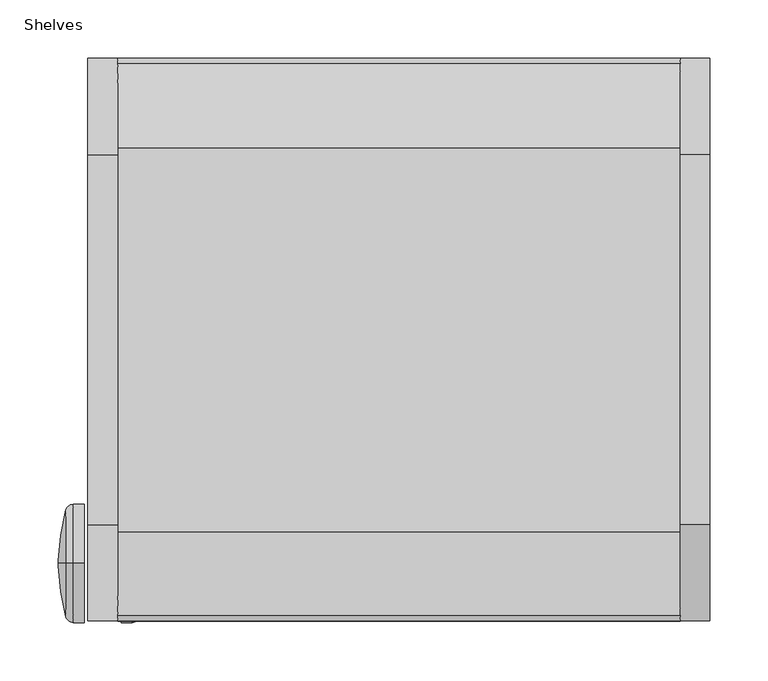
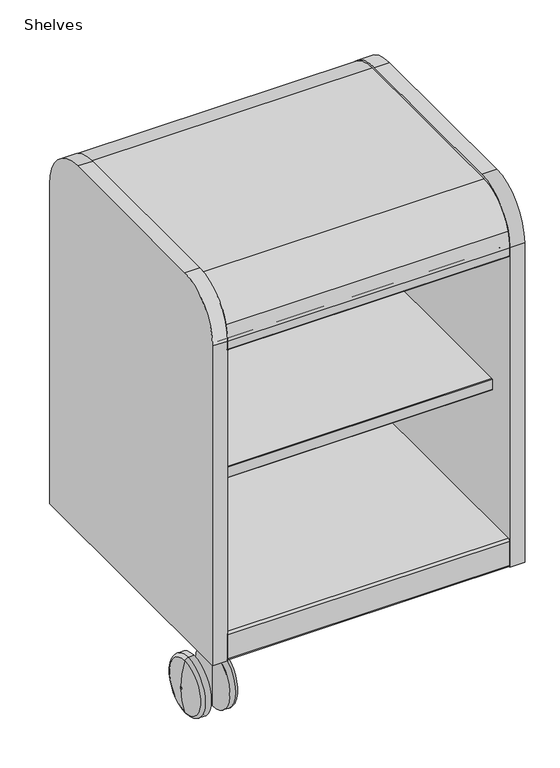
"""IFC4 building model written with IfcOpenShell, lengths in millimetres: furniture geometry, SmithSystem_AM_Storage_Education_Cascade_Case_Mini : Shelves."""

from ifc_helpers import new_model, si_unit, point, frame, frame_2d, origin, place, context, project, spatial, polyline, circle_curve, ellipse_curve, trimmed, segment, composite_curve, outline, extrude, source, transform, mapped, element, save
from ifc_brep_helpers import plane_surface, cylinder_surface, revolved_surface, advanced_brep


def shelves_8a43c67c(model_context):
    return source(origin(), model_context, "Body", "SolidModel", [
        advanced_brep(
        [(-12.7337323, -433.1285696, 101.6), (-12.7337323, -433.1285696, 0.0), (-3.1108852, -433.1285696, 0.0), (-3.1108852, -433.1285696, 101.6), (-3.1108852, -433.1285696, 50.8), (-25.4, -433.1285696, 50.8), (-25.3587665, -433.1285696, 48.5740197), (-25.3587665, -433.1285696, 53.0259803), (-18.8758028, -433.1285696, 4.7383332), (-18.8758028, -433.1285696, 96.8616668)],
        [
            (0, 1, circle_curve(frame((-12.7337323, -433.1285696, 50.8), z_axis=(1.0, 0.0, 0.0), x_axis=(0.0, 0.0, -1.0)), 50.8)),
            (1, 2),
            (2, 3, circle_curve(frame((-3.1108852, -433.1285696, 50.8), z_axis=(-1.0, 0.0, 0.0), x_axis=(0.0, 0.0, -1.0)), 50.8)),
            (3, 0),
            (1, 0, circle_curve(frame((-12.7337323, -433.1285696, 50.8), z_axis=(1.0, 0.0, 0.0), x_axis=(0.0, 0.0, -1.0)), 50.8)),
            (3, 2, circle_curve(frame((-3.1108852, -433.1285696, 50.8), z_axis=(-1.0, 0.0, 0.0), x_axis=(0.0, 0.0, -1.0)), 50.8)),
            (2, 4),
            (4, 3),
            (5, 6, circle_curve(frame((34.7051167, -433.1285696, 50.8), z_axis=(0.0, -1.0, 0.0), x_axis=(1.0, 0.0, 0.0)), 60.1051167)),
            (6, 7, circle_curve(frame((-25.3587665, -433.1285696, 50.8), z_axis=(-1.0, 0.0, 0.0), x_axis=(0.0, 0.0, -1.0)), 2.2259803)),
            (7, 5, circle_curve(frame((34.7051167, -433.1285696, 50.8), z_axis=(0.0, -1.0, 0.0), x_axis=(1.0, 0.0, 0.0)), 60.1051167)),
            (7, 6, circle_curve(frame((-25.3587665, -433.1285696, 50.8), z_axis=(-1.0, 0.0, 0.0), x_axis=(0.0, 0.0, -1.0)), 2.2259803)),
            (6, 8, circle_curve(frame((176.7236761, -433.1285696, 56.0632381), z_axis=(0.0, -1.0, 0.0), x_axis=(1.0, 0.0, 0.0)), 202.221171)),
            (8, 9, circle_curve(frame((-18.8758028, -433.1285696, 50.8), z_axis=(-1.0, 0.0, 0.0), x_axis=(0.0, 0.0, -1.0)), 46.0616668)),
            (9, 7, circle_curve(frame((176.7236761, -433.1285696, 45.5367619), z_axis=(0.0, -1.0, 0.0), x_axis=(1.0, 0.0, 0.0)), 202.221171)),
            (9, 8, circle_curve(frame((-18.8758028, -433.1285696, 50.8), z_axis=(-1.0, 0.0, 0.0), x_axis=(0.0, 0.0, -1.0)), 46.0616668)),
            (8, 1, circle_curve(frame((-12.7337323, -433.1285696, 6.35), z_axis=(0.0, -1.0, 0.0), x_axis=(1.0, 0.0, 0.0)), 6.35)),
            (0, 9, circle_curve(frame((-12.7337323, -433.1285696, 95.25), z_axis=(0.0, -1.0, 0.0), x_axis=(1.0, 0.0, 0.0)), 6.35)),
        ],
        [
            cylinder_surface(frame((3.3119309, -433.1285696, 50.8), z_axis=(-1.0, 0.0, 0.0), x_axis=(0.0, 0.0, -1.0)), 50.8),
            plane_surface(frame((-3.1108852, -433.1285696, 50.8), z_axis=(1.0, 0.0, 0.0), x_axis=(0.0, 0.0, -1.0))),
            revolved_surface(trimmed(ellipse_curve(frame((34.7051167, -433.1285696, 50.8), z_axis=(0.0, 1.0, 0.0), x_axis=(1.0, 0.0, 0.0)), 60.1051167, 60.1051167), [point((-25.3587665, -433.1285696, 48.5740197))], [point((-25.4, -433.1285696, 50.8))], True, "CARTESIAN"), (3.3119309, -433.1285696, 50.8), (-1.0, 0.0, 0.0)),
            revolved_surface(trimmed(ellipse_curve(frame((176.7236761, -433.1285696, 56.0632381), z_axis=(0.0, 1.0, 0.0), x_axis=(1.0, 0.0, 0.0)), 202.221171, 202.221171), [point((-18.8758028, -433.1285696, 4.7383332))], [point((-25.3587665, -433.1285696, 48.5740197))], True, "CARTESIAN"), (3.3119309, -433.1285696, 50.8), (-1.0, 0.0, 0.0)),
            revolved_surface(trimmed(ellipse_curve(frame((-12.7337323, -433.1285696, 6.35), z_axis=(0.0, 1.0, 0.0), x_axis=(1.0, 0.0, 0.0)), 6.35, 6.35), [point((-12.7337323, -433.1285696, 0.0))], [point((-18.8758028, -433.1285696, 4.7383332))], True, "CARTESIAN"), (3.3119309, -433.1285696, 50.8), (-1.0, 0.0, 0.0)),
        ],
        [
            (0, [[1, 2, 3, 4]]),
            (0, [[5, -4, 6, -2]]),
            (1, [[-3, 7, 8]]),
            (1, [[-6, -8, -7]]),
            (2, [[9, 10, 11]]),
            (2, [[-11, 12, -9]]),
            (3, [[-10, 13, 14, 15]]),
            (3, [[-12, -15, 16, -13]]),
            (4, [[-14, 17, -1, 18]]),
            (4, [[-16, -18, -5, -17]]),
        ],
    ),
        advanced_brep(
        [(28.5108852, -433.1285696, 50.8), (28.5108852, -433.1285696, 0.0), (28.5108852, -433.1285696, 101.6), (38.1337323, -433.1285696, 0.0), (38.1337323, -433.1285696, 101.6), (44.2758028, -433.1285696, 4.7383332), (44.2758028, -433.1285696, 96.8616668), (50.7587665, -433.1285696, 48.5740197), (50.7587665, -433.1285696, 53.0259803), (50.8, -433.1285696, 50.8)],
        [
            (0, 1),
            (1, 2, circle_curve(frame((28.5108852, -433.1285696, 50.8), z_axis=(-1.0, 0.0, 0.0), x_axis=(0.0, 0.0, -1.0)), 50.8)),
            (2, 0),
            (2, 1, circle_curve(frame((28.5108852, -433.1285696, 50.8), z_axis=(-1.0, 0.0, 0.0), x_axis=(0.0, 0.0, -1.0)), 50.8)),
            (1, 3),
            (3, 4, circle_curve(frame((38.1337323, -433.1285696, 50.8), z_axis=(-1.0, 0.0, 0.0), x_axis=(0.0, 0.0, -1.0)), 50.8)),
            (4, 2),
            (4, 3, circle_curve(frame((38.1337323, -433.1285696, 50.8), z_axis=(-1.0, 0.0, 0.0), x_axis=(0.0, 0.0, -1.0)), 50.8)),
            (3, 5, circle_curve(frame((38.1337323, -433.1285696, 6.35), z_axis=(0.0, -1.0, 0.0), x_axis=(-1.0, 0.0, 0.0)), 6.35)),
            (5, 6, circle_curve(frame((44.2758028, -433.1285696, 50.8), z_axis=(-1.0, 0.0, 0.0), x_axis=(0.0, 0.0, -1.0)), 46.0616668)),
            (6, 4, circle_curve(frame((38.1337323, -433.1285696, 95.25), z_axis=(0.0, -1.0, 0.0), x_axis=(-1.0, 0.0, 0.0)), 6.35)),
            (6, 5, circle_curve(frame((44.2758028, -433.1285696, 50.8), z_axis=(-1.0, 0.0, 0.0), x_axis=(0.0, 0.0, -1.0)), 46.0616668)),
            (5, 7, circle_curve(frame((-151.3236761, -433.1285696, 56.0632381), z_axis=(0.0, -1.0, 0.0), x_axis=(-1.0, 0.0, 0.0)), 202.221171)),
            (7, 8, circle_curve(frame((50.7587665, -433.1285696, 50.8), z_axis=(-1.0, 0.0, 0.0), x_axis=(0.0, 0.0, -1.0)), 2.2259803)),
            (8, 6, circle_curve(frame((-151.3236761, -433.1285696, 45.5367619), z_axis=(0.0, -1.0, 0.0), x_axis=(-1.0, 0.0, 0.0)), 202.221171)),
            (8, 7, circle_curve(frame((50.7587665, -433.1285696, 50.8), z_axis=(-1.0, 0.0, 0.0), x_axis=(0.0, 0.0, -1.0)), 2.2259803)),
            (7, 9, circle_curve(frame((-9.3051167, -433.1285696, 50.8), z_axis=(0.0, -1.0, 0.0), x_axis=(-1.0, 0.0, 0.0)), 60.1051167)),
            (9, 8, circle_curve(frame((-9.3051167, -433.1285696, 50.8), z_axis=(0.0, -1.0, 0.0), x_axis=(-1.0, 0.0, 0.0)), 60.1051167)),
        ],
        [
            plane_surface(frame((28.5108852, -433.1285696, 50.8), z_axis=(-1.0, 0.0, 0.0), x_axis=(0.0, 0.0, -1.0))),
            cylinder_surface(frame((3.3119309, -433.1285696, 50.8), z_axis=(-1.0, 0.0, 0.0), x_axis=(0.0, 0.0, -1.0)), 50.8),
            revolved_surface(trimmed(ellipse_curve(frame((38.1337323, -433.1285696, 6.35), z_axis=(0.0, 1.0, 0.0), x_axis=(-1.0, 0.0, 0.0)), 6.35, 6.35), [point((44.2758028, -433.1285696, 4.7383332))], [point((38.1337323, -433.1285696, 0.0))], True, "CARTESIAN"), (3.3119309, -433.1285696, 50.8), (-1.0, 0.0, 0.0)),
            revolved_surface(trimmed(ellipse_curve(frame((-151.3236761, -433.1285696, 56.0632381), z_axis=(0.0, 1.0, 0.0), x_axis=(-1.0, 0.0, 0.0)), 202.221171, 202.221171), [point((50.7587665, -433.1285696, 48.5740197))], [point((44.2758028, -433.1285696, 4.7383332))], True, "CARTESIAN"), (3.3119309, -433.1285696, 50.8), (-1.0, 0.0, 0.0)),
            revolved_surface(trimmed(ellipse_curve(frame((-9.3051167, -433.1285696, 50.8), z_axis=(0.0, 1.0, 0.0), x_axis=(-1.0, 0.0, 0.0)), 60.1051167, 60.1051167), [point((50.8, -433.1285696, 50.8))], [point((50.7587665, -433.1285696, 48.5740197))], True, "CARTESIAN"), (3.3119309, -433.1285696, 50.8), (-1.0, 0.0, 0.0)),
        ],
        [
            (0, [[1, 2, 3]]),
            (0, [[-3, 4, -1]]),
            (1, [[-2, 5, 6, 7]]),
            (1, [[-4, -7, 8, -5]]),
            (2, [[-6, 9, 10, 11]]),
            (2, [[-8, -11, 12, -9]]),
            (3, [[-10, 13, 14, 15]]),
            (3, [[-12, -15, 16, -13]]),
            (4, [[-14, 17, 18]]),
            (4, [[-16, -18, -17]]),
        ],
    ),
        extrude(outline(composite_curve([segment(polyline([(-482.6, 111.76), (-482.6, 689.61)]), True, "CONTINUOUS"), segment(trimmed(circle_curve(frame_2d((-400.05, 689.61)), 82.55), [point((-482.6, 689.61))], [point((-400.05, 772.16))], False, "CARTESIAN"), True, "CONTINUOUS"), segment(polyline([(-400.05, 772.16), (-82.55, 772.16)]), True, "CONTINUOUS"), segment(trimmed(circle_curve(frame_2d((-82.55, 689.61)), 82.55), [point((-82.55, 772.16))], [point((0.0, 689.61))], False, "CARTESIAN"), True, "CONTINUOUS"), segment(polyline([(0.0, 689.61), (0.0, 111.76), (-482.6, 111.76)]), True, "CONTINUOUS")], self_intersect=False)), frame((508.0, 0.0, 0.0), z_axis=(1.0, 0.0, 0.0), x_axis=(0.0, 1.0, 0.0)), (0.0, 0.0, 1.0), 25.4),
        extrude(outline(composite_curve([segment(polyline([(-430.784, 421.64), (-50.8, 421.64), (-50.8, 401.32), (-430.784, 401.32)]), True, "CONTINUOUS"), segment(trimmed(circle_curve(frame_2d((-430.784, 402.336)), 1.016), [point((-430.784, 401.32))], [point((-431.8, 402.336))], False, "CARTESIAN"), True, "CONTINUOUS"), segment(polyline([(-431.8, 402.336), (-431.8, 420.624)]), True, "CONTINUOUS"), segment(trimmed(circle_curve(frame_2d((-430.784, 420.624)), 1.016), [point((-431.8, 420.624))], [point((-430.784, 421.64))], False, "CARTESIAN"), True, "CONTINUOUS")], self_intersect=False)), frame((25.4, 0.0, 0.0), z_axis=(1.0, 0.0, 0.0), x_axis=(0.0, 1.0, 0.0)), (0.0, 0.0, 1.0), 482.6),
        extrude(outline(polyline([(672.592, 25.4), (162.56, 25.4), (162.56, 508.0), (672.592, 508.0), (672.592, 25.4)]), holes=[composite_curve([segment(polyline([(207.7516064, 287.6422696), (207.7516064, 245.7577304)]), True, "CONTINUOUS"), segment(trimmed(circle_curve(frame_2d((226.461397, 259.9816015)), 23.5026546), [point((207.7516064, 245.7577304))], [point((244.3683936, 244.7594385))], True, "CARTESIAN"), True, "CONTINUOUS"), segment(polyline([(244.3683936, 244.7594385), (244.3683936, 288.6405615)]), True, "CONTINUOUS"), segment(trimmed(circle_curve(frame_2d((226.461397, 273.4183985)), 23.5026546), [point((244.3683936, 288.6405615))], [point((207.7516064, 287.6422696))], True, "CARTESIAN"), True, "CONTINUOUS")], self_intersect=False), composite_curve([segment(polyline([(590.7836064, 287.6422696), (590.7836064, 245.7577304)]), True, "CONTINUOUS"), segment(trimmed(circle_curve(frame_2d((609.493397, 259.9816015)), 23.5026546), [point((590.7836064, 245.7577304))], [point((627.4003936, 244.7594385))], True, "CARTESIAN"), True, "CONTINUOUS"), segment(polyline([(627.4003936, 244.7594385), (627.4003936, 288.6405615)]), True, "CONTINUOUS"), segment(trimmed(circle_curve(frame_2d((609.493397, 273.4183985)), 23.5026546), [point((627.4003936, 288.6405615))], [point((590.7836064, 287.6422696))], True, "CARTESIAN"), True, "CONTINUOUS")], self_intersect=False)]), frame((0.0, -1.27, 0.0), z_axis=(0.0, 1.0, 0.0), x_axis=(0.0, 0.0, 1.0)), (0.0, 0.0, 1.0), 1.27),
        extrude(outline(composite_curve([segment(polyline([(-478.857627, 162.56), (0.0, 162.56), (0.0, 115.57)]), True, "CONTINUOUS"), segment(trimmed(circle_curve(frame_2d((-3.81, 115.57)), 3.81), [point((0.0, 115.57))], [point((-3.81, 111.76))], False, "CARTESIAN"), True, "CONTINUOUS"), segment(polyline([(-3.81, 111.76), (-478.79, 111.76)]), True, "CONTINUOUS"), segment(trimmed(circle_curve(frame_2d((-478.79, 115.57)), 3.81), [point((-478.79, 111.76))], [point((-482.6, 115.57))], False, "CARTESIAN"), True, "CONTINUOUS"), segment(polyline([(-482.6, 115.57), (-482.6, 158.817627)]), True, "CONTINUOUS"), segment(trimmed(circle_curve(frame_2d((-478.857627, 158.817627)), 3.742373), [point((-482.6, 158.817627))], [point((-478.857627, 162.56))], False, "CARTESIAN"), True, "CONTINUOUS")], self_intersect=False)), frame((25.4, 0.0, 0.0), z_axis=(1.0, 0.0, 0.0), x_axis=(0.0, 1.0, 0.0)), (0.0, 0.0, 1.0), 482.6),
        extrude(outline(composite_curve([segment(polyline([(0.0, 672.592), (-1.27, 672.592), (-1.27, 689.61)]), True, "CONTINUOUS"), segment(trimmed(circle_curve(frame_2d((-82.55, 689.61)), 81.28), [point((-1.27, 689.61))], [point((-5.5439021, 715.6196))], True, "CARTESIAN"), True, "CONTINUOUS"), segment(trimmed(circle_curve(frame_2d((-76.5338986, 691.642)), 74.93), [point((-5.5439021, 715.6196))], [point((-76.5338986, 766.572))], True, "CARTESIAN"), True, "CONTINUOUS"), segment(polyline([(-76.5338986, 766.572), (-406.0661014, 766.572)]), True, "CONTINUOUS"), segment(trimmed(circle_curve(frame_2d((-406.0661014, 691.642)), 74.93), [point((-406.0661014, 766.572))], [point((-477.0560979, 715.6196))], True, "CARTESIAN"), True, "CONTINUOUS"), segment(trimmed(circle_curve(frame_2d((-400.05, 689.61)), 81.28), [point((-477.0560979, 715.6196))], [point((-481.33, 689.61))], True, "CARTESIAN"), True, "CONTINUOUS"), segment(polyline([(-481.33, 689.61), (-481.33, 675.132)]), True, "CONTINUOUS"), segment(trimmed(circle_curve(frame_2d((-480.06, 675.132)), 1.27), [point((-481.33, 675.132))], [point((-480.06, 673.862))], True, "CARTESIAN"), True, "CONTINUOUS"), segment(polyline([(-480.06, 673.862), (-455.93, 673.862)]), True, "CONTINUOUS"), segment(trimmed(circle_curve(frame_2d((-455.93, 671.322)), 2.54), [point((-455.93, 673.862))], [point((-453.39, 671.322))], False, "CARTESIAN"), True, "CONTINUOUS"), segment(polyline([(-453.39, 671.322), (-453.39, 659.892), (-454.66, 659.892), (-454.66, 671.322)]), True, "CONTINUOUS"), segment(trimmed(circle_curve(frame_2d((-455.93, 671.322)), 1.27), [point((-454.66, 671.322))], [point((-455.93, 672.592))], True, "CARTESIAN"), True, "CONTINUOUS"), segment(polyline([(-455.93, 672.592), (-480.06, 672.592)]), True, "CONTINUOUS"), segment(trimmed(circle_curve(frame_2d((-480.06, 675.132)), 2.54), [point((-480.06, 672.592))], [point((-482.6, 675.132))], False, "CARTESIAN"), True, "CONTINUOUS"), segment(polyline([(-482.6, 675.132), (-482.6, 689.61)]), True, "CONTINUOUS"), segment(trimmed(circle_curve(frame_2d((-400.05, 689.61)), 82.55), [point((-482.6, 689.61))], [point((-478.2593181, 716.026))], False, "CARTESIAN"), True, "CONTINUOUS"), segment(trimmed(circle_curve(frame_2d((-406.0661014, 691.642)), 76.2), [point((-478.2593181, 716.026))], [point((-406.0661014, 767.842))], False, "CARTESIAN"), True, "CONTINUOUS"), segment(polyline([(-406.0661014, 767.842), (-76.5338986, 767.842)]), True, "CONTINUOUS"), segment(trimmed(circle_curve(frame_2d((-76.5338986, 691.642)), 76.2), [point((-76.5338986, 767.842))], [point((-4.3406819, 716.026))], False, "CARTESIAN"), True, "CONTINUOUS"), segment(trimmed(circle_curve(frame_2d((-82.55, 689.61)), 82.55), [point((-4.3406819, 716.026))], [point((0.0, 689.61))], False, "CARTESIAN"), True, "CONTINUOUS"), segment(polyline([(0.0, 689.61), (0.0, 672.592)]), True, "CONTINUOUS")], self_intersect=False)), frame((25.4, 0.0, 0.0), z_axis=(1.0, 0.0, 0.0), x_axis=(0.0, 1.0, 0.0)), (0.0, 0.0, 1.0), 482.6),
        extrude(outline(composite_curve([segment(polyline([(0.0, 111.76), (-482.6, 111.76), (-482.6, 689.61)]), True, "CONTINUOUS"), segment(trimmed(circle_curve(frame_2d((-400.05, 689.61)), 82.55), [point((-482.6, 689.61))], [point((-400.05, 772.16))], False, "CARTESIAN"), True, "CONTINUOUS"), segment(polyline([(-400.05, 772.16), (-82.55, 772.16)]), True, "CONTINUOUS"), segment(trimmed(circle_curve(frame_2d((-82.55, 689.61)), 82.55), [point((-82.55, 772.16))], [point((0.0, 689.61))], False, "CARTESIAN"), True, "CONTINUOUS"), segment(polyline([(0.0, 689.61), (0.0, 111.76)]), True, "CONTINUOUS")], self_intersect=False)), frame((0.0, 0.0, 0.0), z_axis=(1.0, 0.0, 0.0), x_axis=(0.0, 1.0, 0.0)), (0.0, 0.0, 1.0), 25.4),
    ])


if __name__ == "__main__":
    model = new_model("IFC4")
    model_context = context("Model", 3, world=origin())
    ifc_project = project(units=[si_unit("LENGTHUNIT", "METRE", prefix="MILLI")], contexts=[model_context])
    site = spatial("IfcSite", under=ifc_project)
    building = spatial("IfcBuilding", under=site)
    placement = place(None, origin())
    shelves_shape = shelves_8a43c67c(model_context)
    element("IfcFurniture", 1, ObjectType="SmithSystem_AM_Storage_Education_Cascade_Case_Mini : Shelves", at=placement, inside=building, context=model_context, shape_type="MappedRepresentation", body=[
        mapped(shelves_shape, transform((0.0, 0.0, 0.0), x_axis=(1.0, 0.0, 0.0), y_axis=(0.0, 1.0, 0.0), z_axis=(0.0, 0.0, 1.0))),
    ])
    save(model, "model.ifc")
